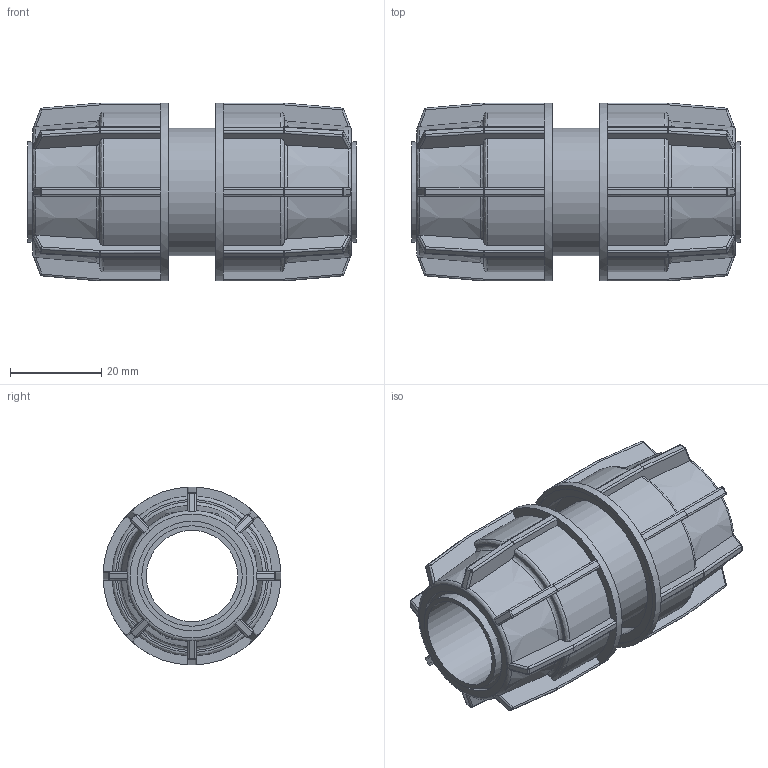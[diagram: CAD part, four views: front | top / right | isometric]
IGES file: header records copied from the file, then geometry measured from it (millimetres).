
Global section: file name: 040107020.ipt; native system: Autodesk Inventor 2015; preprocessor: unknown; author: KIM; date: 20180409.130617; units: millimetre
Bounding box: 72 x 39 x 39 mm (x, y, z)
Volume: 35223.7 mm3; surface area: 18442 mm2
Topology: 1 solids, 1 shells, 522 faces, 1253 edges, 722 vertices
Faces by surface type: plane 236, cylinder 149, sphere 64, revolution 41, bspline 16, cone 16
Full cylindrical faces by diameter (mm): 22 x2, 28 x1, 39 x2
